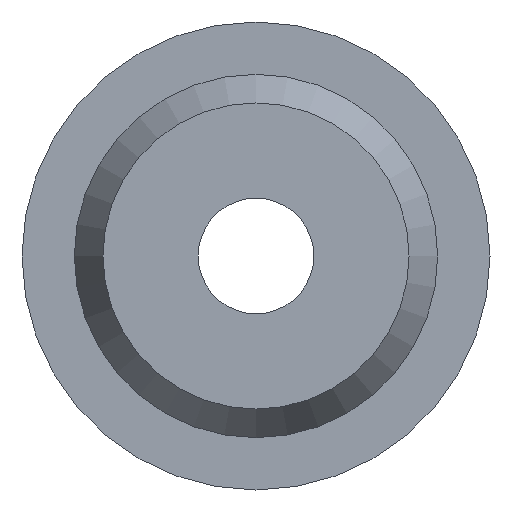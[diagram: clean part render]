
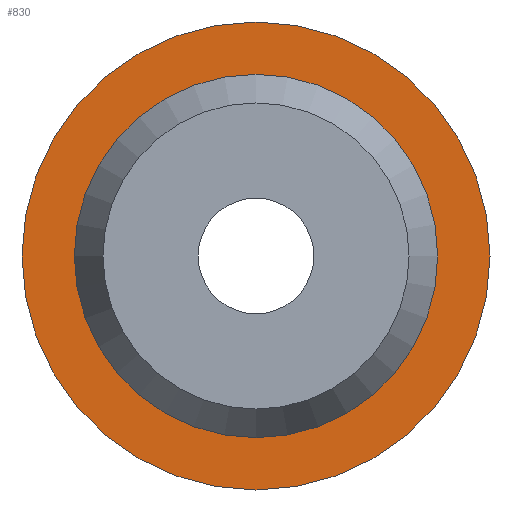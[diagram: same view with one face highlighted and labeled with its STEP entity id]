
A CAD part, front view. The second image highlights one B-rep face of the part: STEP entity #830.
In plain terms, the highlighted planar face has unit normal (0, -1, 0).
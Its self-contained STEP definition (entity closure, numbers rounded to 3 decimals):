
#150=CARTESIAN_POINT('',(6.6,6.5,0.0));
#151=VERTEX_POINT('',#150);
#152=CARTESIAN_POINT('',(0.0,6.5,0.0));
#153=DIRECTION('',(0.0,-1.0,0.0));
#154=DIRECTION('',(1.0,0.0,0.0));
#155=AXIS2_PLACEMENT_3D('',#152,#153,#154);
#156=CIRCLE('',#155,6.6);
#157=EDGE_CURVE('',#151,#151,#156,.T.);
#804=CARTESIAN_POINT('',(8.5,6.5,0.0));
#805=VERTEX_POINT('',#804);
#806=CARTESIAN_POINT('',(0.0,6.5,0.0));
#807=DIRECTION('',(0.0,-1.0,0.0));
#808=DIRECTION('',(1.0,0.0,0.0));
#809=AXIS2_PLACEMENT_3D('',#806,#807,#808);
#810=CIRCLE('',#809,8.5);
#811=EDGE_CURVE('',#805,#805,#810,.T.);
#819=CARTESIAN_POINT('',(7.55,6.5,0.0));
#820=DIRECTION('',(0.0,-1.0,0.0));
#821=DIRECTION('',(0.0,0.0,-1.0));
#822=AXIS2_PLACEMENT_3D('',#819,#820,#821);
#823=PLANE('',#822);
#824=ORIENTED_EDGE('',*,*,#811,.T.);
#825=EDGE_LOOP('',(#824));
#826=FACE_OUTER_BOUND('',#825,.T.);
#827=ORIENTED_EDGE('',*,*,#157,.F.);
#828=EDGE_LOOP('',(#827));
#829=FACE_BOUND('',#828,.T.);
#830=ADVANCED_FACE('',(#826,#829),#823,.T.);
